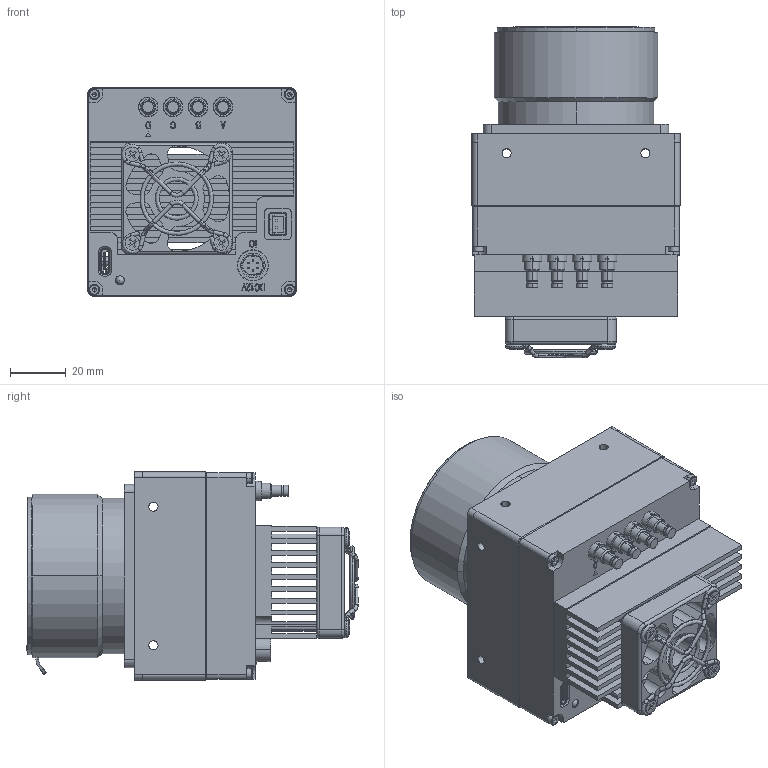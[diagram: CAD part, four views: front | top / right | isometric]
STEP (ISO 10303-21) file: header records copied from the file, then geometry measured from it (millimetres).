
FILE_DESCRIPTION (( 'STEP AP203' ), '1' );
FILE_NAME ('TS65MCXP低速版.STEP', '2022-10-18T01:02:33', ( '微软用户' ), ( '微软中国' ), 'SwSTEP 2.0', 'SolidWorks 2017', '' );
FILE_SCHEMA (( 'CONFIG_CONTROL_DESIGN' ));
Products named in the file (1): TS65MCXP腴厒唳
Bounding box: 75 x 119.61 x 75 mm (x, y, z)
Surface area: 71179.9 mm2 (no closed solid volume)
Topology: 0 solids, 83 shells, 907 faces, 3094 edges, 2241 vertices
Faces by surface type: plane 420, cylinder 311, bspline 87, cone 58, torus 24, sphere 7
Entity records: 36913 total; most frequent: CARTESIAN_POINT 10522, DIRECTION 5523, ORIENTED_EDGE 4949, EDGE_CURVE 3071, VERTEX_POINT 2233, AXIS2_PLACEMENT_3D 1853, LINE 1817, VECTOR 1817
